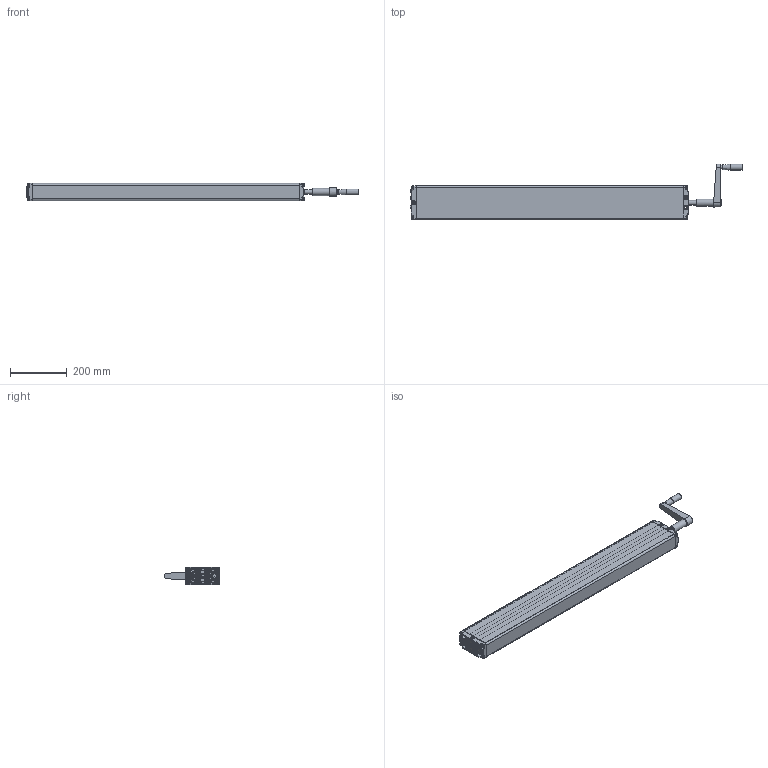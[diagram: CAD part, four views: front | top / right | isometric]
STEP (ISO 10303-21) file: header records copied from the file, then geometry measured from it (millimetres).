
FILE_DESCRIPTION(/* description */ ('Unknown'),/* implementation_level */ '2;1');
FILE_NAME(/* name */ '312.20038 Pumpe PB 5870 W mit Handkurbel',/* time_stamp */ '2016-10-21T16:29:28+02:00',/* author */ ('Unknown'),/* organization */ ('Unknown'),/* preprocessor_version */ 'ST-DEVELOPER v16.7',/* originating_system */ 'DEX',/* authorisation */ $);
FILE_SCHEMA (('AUTOMOTIVE_DESIGN {1 0 10303 214 3 1 1}'));
Products named in the file (22): 102.20038; 115.00039; 125.00045; 115.00008; 142.00021; 125.00021; 113.00005; 128.00001; 125.00052; 126.00013; 125.00053; 127.00014; Handgriff; 142.00013; 142.00110; 125.00149; 115.00140; 126.00006; 122.00040; 119.00040; 126.00005; 142.00057
Assembly tree (32 placements, depth 3):
  102.20038
    115.00039  x5
      125.00045
      115.00008
      142.00021
      125.00021
    113.00005
      128.00001
      125.00052
      126.00013
      125.00053
      127.00014
      Handgriff
    142.00013  x8
    142.00110
    125.00149
    115.00140
      126.00006
      122.00040
    119.00040
    126.00005
    142.00057
Bounding box: 1166.72 x 195.5 x 60.3 mm (x, y, z)
Volume: 1285460.1 mm3; surface area: 852278 mm2
Topology: 36 solids, 36 shells, 2636 faces, 6224 edges, 3595 vertices
Faces by surface type: plane 736, bspline 707, cylinder 589, cone 370, torus 174, sphere 60
Full cylindrical faces by diameter (mm): 3.5 x5, 4 x2, 4.1 x5, 4.2 x6, 4.917 x2, 5 x8, 6.917 x10, 8 x12, 9.8 x8, 10 x4, 10.4 x1, 12.8 x1, 13 x1, 14 x1, 14.4 x5, 15.8 x1, 16 x2, 17 x1, 17.3 x5, 17.9 x10, 18 x2, 19 x1, 20.6 x1, 21 x1, 21.2 x1, 22 x1, 25.5 x1
Entity records: 101371 total; most frequent: CARTESIAN_POINT 55714, ORIENTED_EDGE 8538, DIRECTION 6965, EDGE_CURVE 4269, AXIS2_PLACEMENT_3D 2803, VERTEX_POINT 2631, FACE_BOUND 2120, EDGE_LOOP 2117
